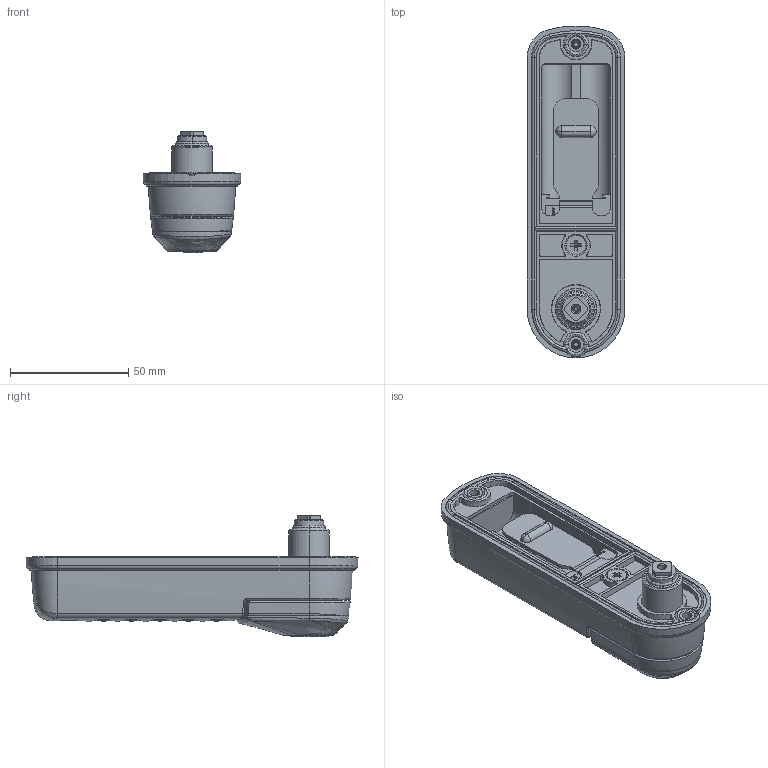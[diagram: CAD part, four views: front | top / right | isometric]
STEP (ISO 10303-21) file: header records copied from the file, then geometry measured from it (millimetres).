
FILE_DESCRIPTION (( 'STEP AP214' ), '1' );
FILE_NAME ('3781_Wet_Area.STEP', '2015-08-21T09:08:47', ( '' ), ( '' ), 'SwSTEP 2.0', 'SolidWorks 2015', '' );
FILE_SCHEMA (( 'AUTOMOTIVE_DESIGN' ));
Length unit declared in the file: millimetre
Products named in the file (2): 3781_Wet_Area
Bounding box: 41.38 x 140.38 x 51.3 mm (x, y, z)
Volume: 63124.2 mm3; surface area: 73252.2 mm2
Topology: 13 solids, 13 shells, 2286 faces, 5983 edges, 3841 vertices
Faces by surface type: plane 974, bspline 662, cylinder 271, cone 200, torus 150, sphere 29
Entity records: 115088 total; most frequent: CARTESIAN_POINT 47987, ORIENTED_EDGE 11930, DIRECTION 8861, EDGE_CURVE 5965, VERTEX_POINT 3841, LINE 3135, VECTOR 3135, AXIS2_PLACEMENT_3D 2863
